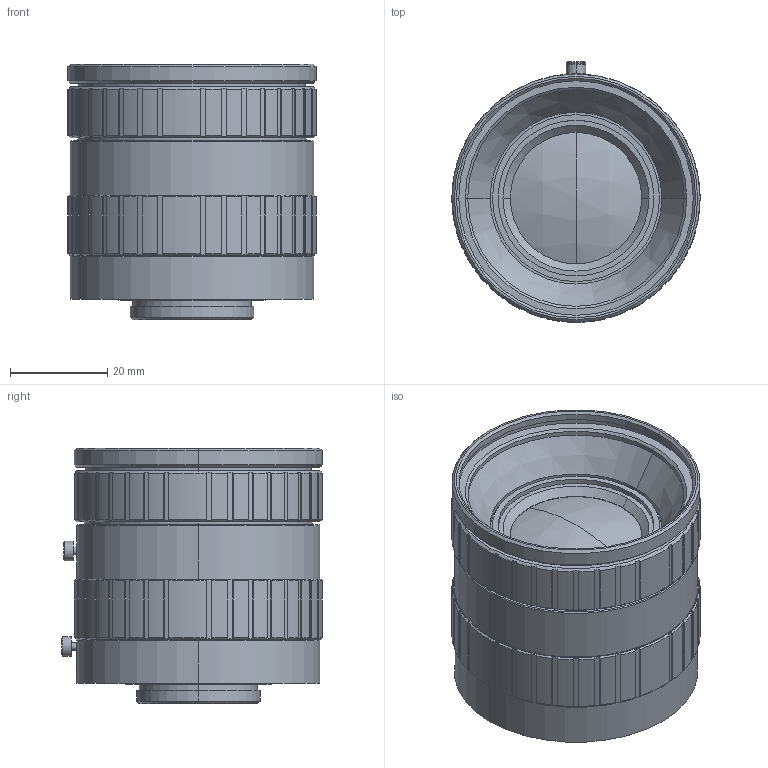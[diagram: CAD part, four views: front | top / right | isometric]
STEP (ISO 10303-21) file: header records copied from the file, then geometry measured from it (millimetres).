
FILE_DESCRIPTION (( 'STEP AP214' ), '1' );
FILE_NAME ('CF35HA-1_3D_Modeling.STEP', '2016-06-07T04:02:03', ( '富士フイルム株式会社' ), ( '富士フイルム株式会社' ), 'SwSTEP 2.0', 'SolidWorks 2014', '' );
FILE_SCHEMA (( 'AUTOMOTIVE_DESIGN' ));
Length unit declared in the file: millimetre
Products named in the file (1): CF35HA-1_3D_Modeling
Bounding box: 51 x 53.6 x 52.53 mm (x, y, z)
Volume: 80774.3 mm3; surface area: 15453.7 mm2
Topology: 1 solids, 1 shells, 370 faces, 1000 edges, 656 vertices
Faces by surface type: cylinder 176, plane 152, cone 38, sphere 4
Entity records: 12160 total; most frequent: CARTESIAN_POINT 2947, ORIENTED_EDGE 2000, DIRECTION 1880, EDGE_CURVE 1000, AXIS2_PLACEMENT_3D 769, VERTEX_POINT 656, CIRCLE 398, EDGE_LOOP 394
